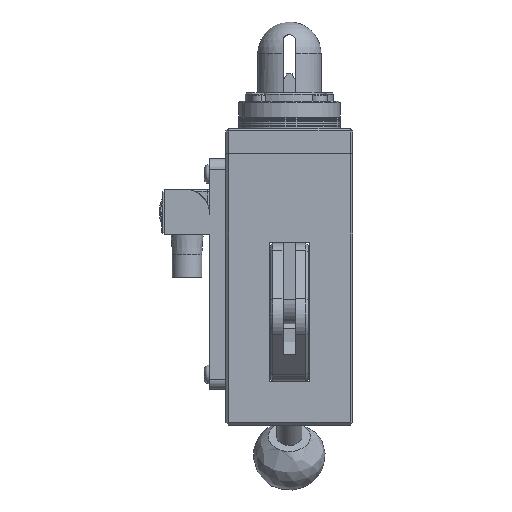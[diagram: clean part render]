
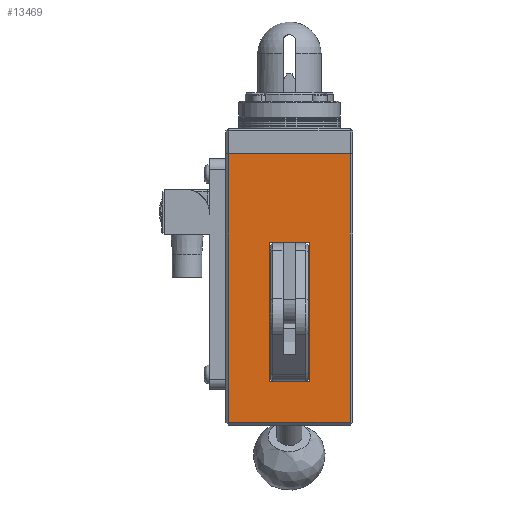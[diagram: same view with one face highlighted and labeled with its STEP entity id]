
A CAD part, left-side view. The second image highlights one B-rep face of the part: STEP entity #13469.
In plain terms, the highlighted planar face has unit normal (-1, 0, 0).
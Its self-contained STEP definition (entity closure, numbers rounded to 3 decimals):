
#357=FACE_BOUND('',#2071,.T.);
#776=PLANE('',#14633);
#1227=FACE_OUTER_BOUND('',#2070,.T.);
#2070=EDGE_LOOP('',(#9763,#9764,#9765,#9766));
#2071=EDGE_LOOP('',(#9767,#9768,#9769,#9770));
#2939=LINE('',#20721,#3927);
#2946=LINE('',#20751,#3934);
#2972=LINE('',#20830,#3960);
#2975=LINE('',#20836,#3963);
#3017=LINE('',#21050,#4005);
#3025=LINE('',#21072,#4013);
#3037=LINE('',#21112,#4025);
#3038=LINE('',#21114,#4026);
#3927=VECTOR('',#16346,10.);
#3934=VECTOR('',#16375,10.);
#3960=VECTOR('',#16451,10.);
#3963=VECTOR('',#16456,10.);
#4005=VECTOR('',#16688,10.);
#4013=VECTOR('',#16710,10.);
#4025=VECTOR('',#16754,10.);
#4026=VECTOR('',#16757,10.);
#5842=VERTEX_POINT('',#20718);
#5843=VERTEX_POINT('',#20720);
#5854=VERTEX_POINT('',#20748);
#5855=VERTEX_POINT('',#20750);
#5883=VERTEX_POINT('',#20828);
#5885=VERTEX_POINT('',#20834);
#5962=VERTEX_POINT('',#21049);
#5969=VERTEX_POINT('',#21071);
#7245=EDGE_CURVE('',#5843,#5842,#2939,.T.);
#7259=EDGE_CURVE('',#5854,#5855,#2946,.T.);
#7296=EDGE_CURVE('',#5883,#5854,#2972,.T.);
#7299=EDGE_CURVE('',#5885,#5883,#2975,.T.);
#7402=EDGE_CURVE('',#5962,#5843,#3017,.T.);
#7412=EDGE_CURVE('',#5969,#5962,#3025,.T.);
#7430=EDGE_CURVE('',#5842,#5969,#3037,.T.);
#7431=EDGE_CURVE('',#5855,#5885,#3038,.T.);
#9763=ORIENTED_EDGE('',*,*,#7296,.F.);
#9764=ORIENTED_EDGE('',*,*,#7299,.F.);
#9765=ORIENTED_EDGE('',*,*,#7431,.F.);
#9766=ORIENTED_EDGE('',*,*,#7259,.F.);
#9767=ORIENTED_EDGE('',*,*,#7402,.T.);
#9768=ORIENTED_EDGE('',*,*,#7245,.T.);
#9769=ORIENTED_EDGE('',*,*,#7430,.T.);
#9770=ORIENTED_EDGE('',*,*,#7412,.T.);
#13469=ADVANCED_FACE('',(#1227,#357),#776,.T.);
#14633=AXIS2_PLACEMENT_3D('',#21113,#16755,#16756);
#16346=DIRECTION('',(0.,0.,1.));
#16375=DIRECTION('',(0.,0.,1.));
#16451=DIRECTION('',(0.,1.,0.));
#16456=DIRECTION('',(0.,0.,-1.));
#16688=DIRECTION('',(0.,1.,0.));
#16710=DIRECTION('',(0.,0.,-1.));
#16754=DIRECTION('',(0.,-1.,0.));
#16755=DIRECTION('center_axis',(-1.,0.,0.));
#16756=DIRECTION('ref_axis',(0.,-1.,0.));
#16757=DIRECTION('',(0.,-1.,0.));
#20718=CARTESIAN_POINT('',(-36.509,7.434,18.5));
#20720=CARTESIAN_POINT('',(-36.509,7.434,-36.5));
#20721=CARTESIAN_POINT('',(-36.509,7.434,-45.));
#20748=CARTESIAN_POINT('',(-36.509,23.434,-52.5));
#20750=CARTESIAN_POINT('',(-36.509,23.434,53.5));
#20751=CARTESIAN_POINT('',(-36.509,23.434,-53.5));
#20828=CARTESIAN_POINT('',(-36.509,-24.566,-52.5));
#20830=CARTESIAN_POINT('',(-36.509,-6.816,-52.5));
#20834=CARTESIAN_POINT('',(-36.509,-24.566,53.5));
#20836=CARTESIAN_POINT('',(-36.509,-24.566,-53.5));
#21049=CARTESIAN_POINT('',(-36.509,-8.566,-36.5));
#21050=CARTESIAN_POINT('',(-36.509,-0.566,-36.5));
#21071=CARTESIAN_POINT('',(-36.509,-8.566,18.5));
#21072=CARTESIAN_POINT('',(-36.509,-8.566,-45.));
#21112=CARTESIAN_POINT('',(-36.509,-4.566,18.5));
#21113=CARTESIAN_POINT('Origin',(-36.509,-0.566,-53.5));
#21114=CARTESIAN_POINT('',(-36.509,-0.566,53.5));
